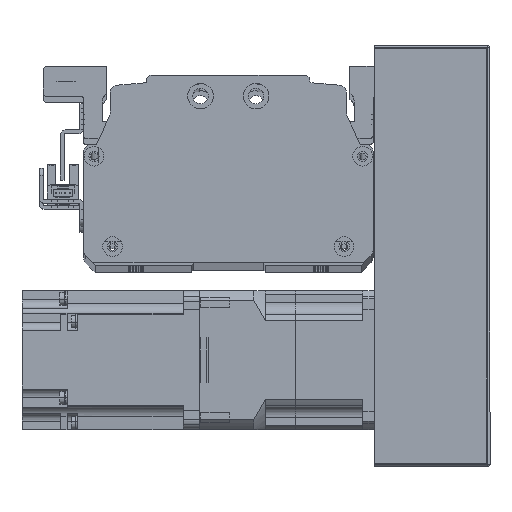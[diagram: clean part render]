
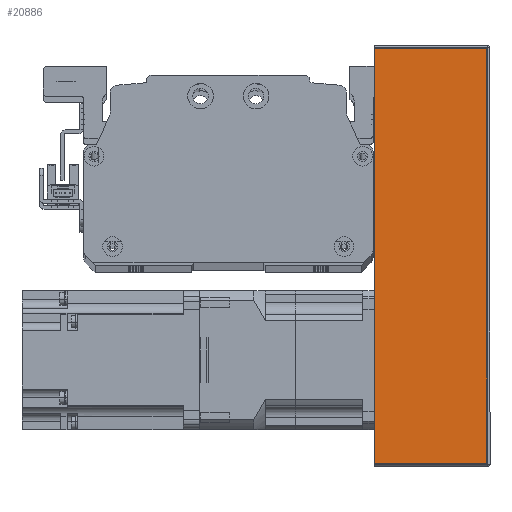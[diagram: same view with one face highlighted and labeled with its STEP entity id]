
A CAD part, top view. The second image highlights one B-rep face of the part: STEP entity #20886.
In plain terms, the highlighted planar face has unit normal (0, 0, 1) as drawn and (0, 1, 0) by its records, which use the part's own axes.
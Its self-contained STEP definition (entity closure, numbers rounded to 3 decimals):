
#568=PLANE('',#22949);
#1775=LINE('',#34047,#3399);
#1789=LINE('',#34092,#3413);
#1793=LINE('',#34114,#3417);
#1812=LINE('',#34177,#3436);
#3399=VECTOR('',#27686,10.);
#3413=VECTOR('',#27734,10.);
#3417=VECTOR('',#27768,10.);
#3436=VECTOR('',#27851,10.);
#5878=FACE_OUTER_BOUND('',#7390,.T.);
#7390=EDGE_LOOP('',(#17416,#17417,#17418,#17419));
#10294=VERTEX_POINT('',#34044);
#10295=VERTEX_POINT('',#34046);
#10308=VERTEX_POINT('',#34087);
#10309=VERTEX_POINT('',#34090);
#12763=EDGE_CURVE('',#10295,#10294,#1775,.T.);
#12787=EDGE_CURVE('',#10308,#10309,#1789,.T.);
#12799=EDGE_CURVE('',#10294,#10308,#1793,.T.);
#12830=EDGE_CURVE('',#10309,#10295,#1812,.T.);
#17416=ORIENTED_EDGE('',*,*,#12787,.T.);
#17417=ORIENTED_EDGE('',*,*,#12830,.T.);
#17418=ORIENTED_EDGE('',*,*,#12763,.T.);
#17419=ORIENTED_EDGE('',*,*,#12799,.T.);
#20886=ADVANCED_FACE('',(#5878),#568,.F.);
#22949=AXIS2_PLACEMENT_3D('',#34176,#27849,#27850);
#27686=DIRECTION('',(-1.,0.,0.));
#27734=DIRECTION('',(1.,0.,0.));
#27768=DIRECTION('',(0.,0.,1.));
#27849=DIRECTION('center_axis',(0.,-1.,0.));
#27850=DIRECTION('ref_axis',(-1.,0.,0.));
#27851=DIRECTION('',(0.,0.,-1.));
#34044=CARTESIAN_POINT('',(-90.,38.,-25.));
#34046=CARTESIAN_POINT('',(90.,38.,-25.));
#34047=CARTESIAN_POINT('',(-91.,38.,-25.));
#34087=CARTESIAN_POINT('',(-90.,38.,24.));
#34090=CARTESIAN_POINT('',(90.,38.,24.));
#34092=CARTESIAN_POINT('',(45.5,38.,24.));
#34114=CARTESIAN_POINT('',(-90.,38.,0.));
#34176=CARTESIAN_POINT('Origin',(91.,38.,0.));
#34177=CARTESIAN_POINT('',(90.,38.,0.));
